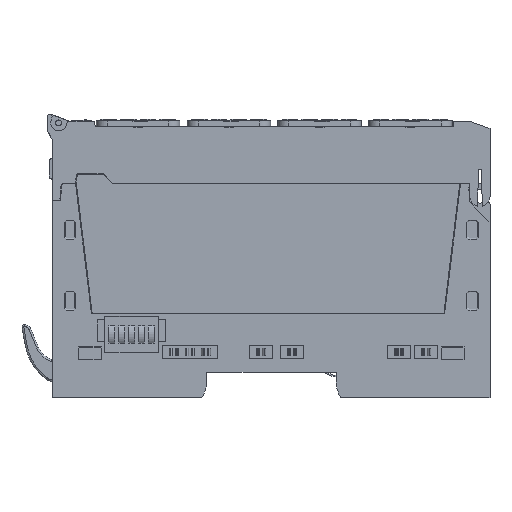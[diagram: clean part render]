
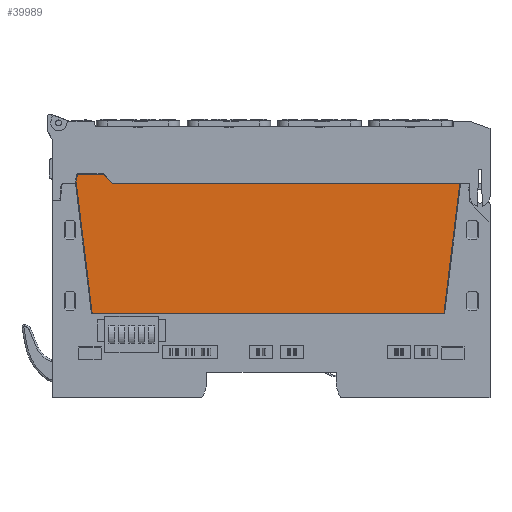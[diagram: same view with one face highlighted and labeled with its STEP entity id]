
A CAD part, top view. The second image highlights one B-rep face of the part: STEP entity #39989.
In plain terms, the highlighted planar face has unit normal (0, 0, 1).
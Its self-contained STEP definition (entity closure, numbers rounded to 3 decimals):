
#39929=AXIS2_PLACEMENT_3D('Plane Axis2P3D',#39926,#39927,#39928) ;
#39961=AXIS2_PLACEMENT_3D('Circle Axis2P3D',#39959,#39960,$) ;
#36627=CARTESIAN_POINT('Vertex',(47.15,16.1,11.5)) ;
#36630=CARTESIAN_POINT('Line Origine',(-0.9,16.1,11.5)) ;
#36634=CARTESIAN_POINT('Vertex',(-48.95,16.1,11.5)) ;
#39910=CARTESIAN_POINT('Vertex',(51.497,51.5,11.5)) ;
#39913=CARTESIAN_POINT('Line Origine',(49.323,33.8,11.5)) ;
#39926=CARTESIAN_POINT('Axis2P3D Location',(0.,0.,11.5)) ;
#39931=CARTESIAN_POINT('Line Origine',(-51.123,33.8,11.5)) ;
#39935=CARTESIAN_POINT('Vertex',(-53.297,51.5,11.5)) ;
#39938=CARTESIAN_POINT('Line Origine',(4.05,51.5,11.5)) ;
#39942=CARTESIAN_POINT('Vertex',(-43.396,51.5,11.5)) ;
#39945=CARTESIAN_POINT('Line Origine',(-44.684,52.8,11.5)) ;
#39949=CARTESIAN_POINT('Vertex',(-45.971,54.1,11.5)) ;
#39952=CARTESIAN_POINT('Line Origine',(-49.265,54.1,11.5)) ;
#39956=CARTESIAN_POINT('Vertex',(-52.558,54.1,11.5)) ;
#39959=CARTESIAN_POINT('Axis2P3D Location',(-52.558,53.6,11.5)) ;
#39963=CARTESIAN_POINT('Vertex',(-53.051,53.686,11.5)) ;
#39966=CARTESIAN_POINT('Line Origine',(-53.174,52.982,11.5)) ;
#39970=CARTESIAN_POINT('Vertex',(-53.297,52.277,11.5)) ;
#39973=CARTESIAN_POINT('Line Origine',(-53.297,51.889,11.5)) ;
#36631=DIRECTION('Vector Direction',(-1.,0.,0.)) ;
#39914=DIRECTION('Vector Direction',(0.122,0.993,0.)) ;
#39927=DIRECTION('Axis2P3D Direction',(0.,0.,1.)) ;
#39928=DIRECTION('Axis2P3D XDirection',(1.,0.,0.)) ;
#39932=DIRECTION('Vector Direction',(0.122,-0.993,0.)) ;
#39939=DIRECTION('Vector Direction',(1.,0.,0.)) ;
#39946=DIRECTION('Vector Direction',(-0.704,0.71,0.)) ;
#39953=DIRECTION('Vector Direction',(-1.,0.,0.)) ;
#39960=DIRECTION('Axis2P3D Direction',(0.,0.,1.)) ;
#39967=DIRECTION('Vector Direction',(-0.172,-0.985,0.)) ;
#39974=DIRECTION('Vector Direction',(0.,-1.,0.)) ;
#36632=VECTOR('Line Direction',#36631,1.) ;
#39915=VECTOR('Line Direction',#39914,1.) ;
#39933=VECTOR('Line Direction',#39932,1.) ;
#39940=VECTOR('Line Direction',#39939,1.) ;
#39947=VECTOR('Line Direction',#39946,1.) ;
#39954=VECTOR('Line Direction',#39953,1.) ;
#39968=VECTOR('Line Direction',#39967,1.) ;
#39975=VECTOR('Line Direction',#39974,1.) ;
#39979=ORIENTED_EDGE('',*,*,#39937,.T.) ;
#39980=ORIENTED_EDGE('',*,*,#36636,.T.) ;
#39981=ORIENTED_EDGE('',*,*,#39917,.T.) ;
#39982=ORIENTED_EDGE('',*,*,#39944,.T.) ;
#39983=ORIENTED_EDGE('',*,*,#39951,.T.) ;
#39984=ORIENTED_EDGE('',*,*,#39958,.T.) ;
#39985=ORIENTED_EDGE('',*,*,#39965,.T.) ;
#39986=ORIENTED_EDGE('',*,*,#39972,.T.) ;
#39987=ORIENTED_EDGE('',*,*,#39977,.T.) ;
#39989=ADVANCED_FACE('ELGH_BASIC',(#39988),#39930,.T.) ;
#39962=CIRCLE('generated circle',#39961,0.5) ;
#36636=EDGE_CURVE('',#36635,#36628,#36633,.F.) ;
#39917=EDGE_CURVE('',#36628,#39911,#39916,.T.) ;
#39937=EDGE_CURVE('',#39936,#36635,#39934,.T.) ;
#39944=EDGE_CURVE('',#39911,#39943,#39941,.F.) ;
#39951=EDGE_CURVE('',#39943,#39950,#39948,.T.) ;
#39958=EDGE_CURVE('',#39950,#39957,#39955,.T.) ;
#39965=EDGE_CURVE('',#39957,#39964,#39962,.T.) ;
#39972=EDGE_CURVE('',#39964,#39971,#39969,.T.) ;
#39977=EDGE_CURVE('',#39971,#39936,#39976,.T.) ;
#39978=EDGE_LOOP('',(#39979,#39980,#39981,#39982,#39983,#39984,#39985,#39986,#39987)) ;
#39988=FACE_OUTER_BOUND('',#39978,.T.) ;
#36633=LINE('Line',#36630,#36632) ;
#39916=LINE('Line',#39913,#39915) ;
#39934=LINE('Line',#39931,#39933) ;
#39941=LINE('Line',#39938,#39940) ;
#39948=LINE('Line',#39945,#39947) ;
#39955=LINE('Line',#39952,#39954) ;
#39969=LINE('Line',#39966,#39968) ;
#39976=LINE('Line',#39973,#39975) ;
#39930=PLANE('',#39929) ;
#36628=VERTEX_POINT('',#36627) ;
#36635=VERTEX_POINT('',#36634) ;
#39911=VERTEX_POINT('',#39910) ;
#39936=VERTEX_POINT('',#39935) ;
#39943=VERTEX_POINT('',#39942) ;
#39950=VERTEX_POINT('',#39949) ;
#39957=VERTEX_POINT('',#39956) ;
#39964=VERTEX_POINT('',#39963) ;
#39971=VERTEX_POINT('',#39970) ;
